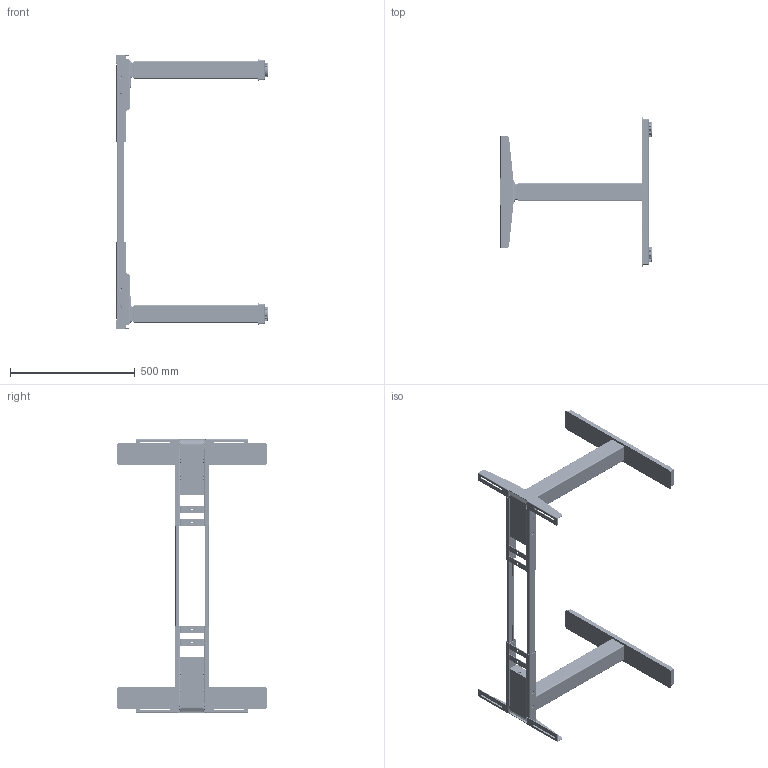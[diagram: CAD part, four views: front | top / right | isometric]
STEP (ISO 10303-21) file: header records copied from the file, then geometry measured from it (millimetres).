
FILE_DESCRIPTION((''),'2;1');
FILE_NAME('R_YQ2025-D028_RNM_ASM','2025-12-08T15:45:51',('jc0074'),('捷昌驱动'),'CREO PARAMETRIC BY PTC INC, 2024374','CREO PARAMETRIC BY PTC INC, 2024374','');
FILE_SCHEMA(('CONFIG_CONTROL_DESIGN'));
Products named in the file (24): 2323C35TS-3021_3; 2323C35TS-2536_2; 2323S36DR-3100_2_1; 2323S36DS-0248_1_1; 2323S36DS-1242_1_1; 2323C35TS-4138_ASM_1_ASM_1_ASM; 2323C35TS-4798_1_1; 2323C35TS-4799_1_1; 2323CSP-0688_1_1; 2323C35TS-2540_2_1; 2323S36DS-1130_1_1; 2323S36DS-0232_1_1; 2323S36DS-0125_1_1; 2323S36DS-0247_ASM_1_ASM_1_ASM; 2323S36DS-1277_ASM_1_ASM_1_ASM; 2323C35TS-5995_1; 2323C35TS-0380_2_1; 2323C35TS-0380_2_2; 2323C35TS-0380_2_ASM; R_5860001_ASM_1_RNM_ASM; R_EZDS1-3-S_ASM_2_RNM_ASM; 2323C35TS-7233_1; R_YQ2025-D028_ASM_3_RNM_ASM; R_YQ2025-D028_RNM_ASM
Assembly tree (29 placements, depth 6):
  R_YQ2025-D028_RNM_ASM
    R_YQ2025-D028_ASM_3_RNM_ASM
      2323C35TS-3021_3  x2
      2323C35TS-2536_2  x2
      R_EZDS1-3-S_ASM_2_RNM_ASM  x2
        2323S36DS-1277_ASM_1_ASM_1_ASM
          2323C35TS-4138_ASM_1_ASM_1_ASM
            2323S36DR-3100_2_1
            2323S36DS-0248_1_1
            2323S36DS-1242_1_1
          2323C35TS-4798_1_1
          2323C35TS-4799_1_1
          2323CSP-0688_1_1  x2
          2323C35TS-2540_2_1
          2323S36DS-1130_1_1
          2323S36DS-0247_ASM_1_ASM_1_ASM
            2323S36DS-0232_1_1
            2323S36DS-0125_1_1
        R_5860001_ASM_1_RNM_ASM
          2323C35TS-5995_1
          2323C35TS-0380_2_ASM  x2
            2323C35TS-0380_2_1
            2323C35TS-0380_2_2
      2323C35TS-7233_1  x2
Bounding box: 607 x 600 x 1100 mm (x, y, z)
Volume: 2874025.4 mm3; surface area: 2980548.1 mm2
Topology: 38 solids, 130 shells, 6650 faces, 22328 edges, 15918 vertices
Faces by surface type: cylinder 4248, plane 1966, torus 176, cone 120, bspline 120, sphere 20
Entity records: 96665 total; most frequent: CARTESIAN_POINT 24391, DIRECTION 15560, ORIENTED_EDGE 15334, EDGE_CURVE 7773, AXIS2_PLACEMENT_3D 5864, VERTEX_POINT 5459, VECTOR 3832, LINE 3832
